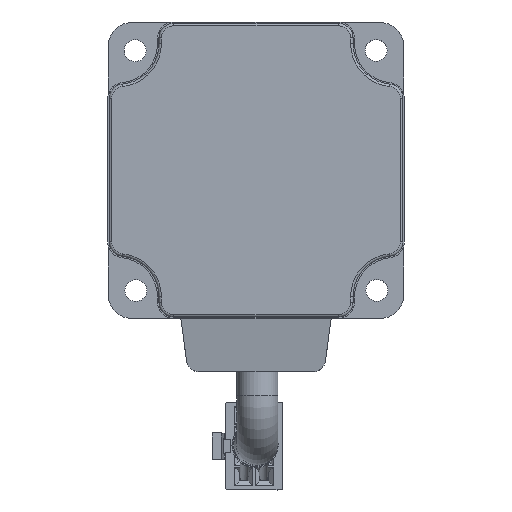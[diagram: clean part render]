
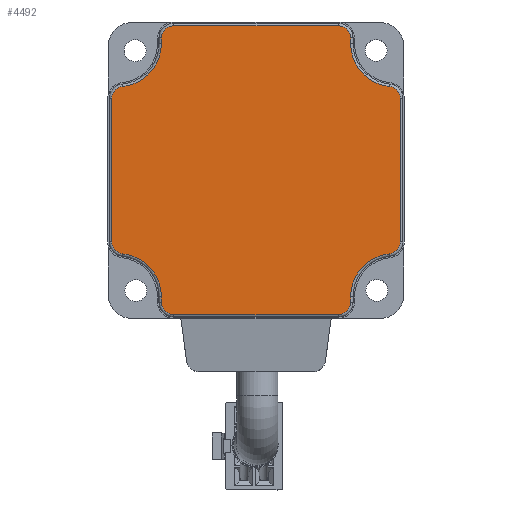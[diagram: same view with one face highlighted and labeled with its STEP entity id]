
A CAD part, top view. The second image highlights one B-rep face of the part: STEP entity #4492.
In plain terms, the highlighted planar face has unit normal (0, 0, 1).
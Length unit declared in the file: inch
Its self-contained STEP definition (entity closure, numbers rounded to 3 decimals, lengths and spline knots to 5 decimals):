
#3633=CARTESIAN_POINT('',(0.66929,1.17126,1.33858));
#3634=VERTEX_POINT('',#3633);
#3642=CARTESIAN_POINT('',(0.76772,1.07283,1.33858));
#3643=VERTEX_POINT('',#3642);
#3644=CARTESIAN_POINT('',(0.66929,1.07283,1.33858));
#3645=DIRECTION('',(0.0,0.0,-1.0));
#3646=DIRECTION('',(0.707,0.707,0.0));
#3647=AXIS2_PLACEMENT_3D('',#3644,#3645,#3646);
#3648=CIRCLE('',#3647,0.09843);
#3649=EDGE_CURVE('',#3634,#3643,#3648,.T.);
#3675=CARTESIAN_POINT('',(0.76772,1.02773,1.33858));
#3676=VERTEX_POINT('',#3675);
#3693=CARTESIAN_POINT('',(0.76772,1.07283,1.33858));
#3694=DIRECTION('',(0.,-1.0,0.0));
#3695=VECTOR('',#3694,0.0451);
#3696=LINE('',#3693,#3695);
#3697=EDGE_CURVE('',#3643,#3676,#3696,.T.);
#3707=CARTESIAN_POINT('',(1.08276,0.67912,1.33858));
#3708=VERTEX_POINT('',#3707);
#3726=CARTESIAN_POINT('',(1.11811,1.02773,1.33858));
#3727=DIRECTION('',(0.0,0.0,1.0));
#3728=DIRECTION('',(-0.742,-0.67,0.0));
#3729=AXIS2_PLACEMENT_3D('',#3726,#3727,#3728);
#3730=CIRCLE('',#3729,0.35039);
#3731=EDGE_CURVE('',#3676,#3708,#3730,.T.);
#3741=CARTESIAN_POINT('',(1.17126,0.5812,1.33858));
#3742=VERTEX_POINT('',#3741);
#3760=CARTESIAN_POINT('',(1.07283,0.5812,1.33858));
#3761=DIRECTION('',(0.0,0.0,-1.0));
#3762=DIRECTION('',(0.742,0.67,0.0));
#3763=AXIS2_PLACEMENT_3D('',#3760,#3761,#3762);
#3764=CIRCLE('',#3763,0.09843);
#3765=EDGE_CURVE('',#3708,#3742,#3764,.T.);
#3775=CARTESIAN_POINT('',(1.17126,-0.5812,1.33858));
#3776=VERTEX_POINT('',#3775);
#3793=CARTESIAN_POINT('',(1.17126,0.5812,1.33858));
#3794=DIRECTION('',(0.0,-1.0,0.0));
#3795=VECTOR('',#3794,1.1624);
#3796=LINE('',#3793,#3795);
#3797=EDGE_CURVE('',#3742,#3776,#3796,.T.);
#3807=CARTESIAN_POINT('',(1.08276,-0.67912,1.33858));
#3808=VERTEX_POINT('',#3807);
#3826=CARTESIAN_POINT('',(1.07283,-0.5812,1.33858));
#3827=DIRECTION('',(0.0,0.0,-1.));
#3828=DIRECTION('',(0.742,-0.67,0.0));
#3829=AXIS2_PLACEMENT_3D('',#3826,#3827,#3828);
#3830=CIRCLE('',#3829,0.09843);
#3831=EDGE_CURVE('',#3776,#3808,#3830,.T.);
#3841=CARTESIAN_POINT('',(0.76772,-1.02773,1.33858));
#3842=VERTEX_POINT('',#3841);
#3860=CARTESIAN_POINT('',(1.11811,-1.02773,1.33858));
#3861=DIRECTION('',(0.0,0.0,1.));
#3862=DIRECTION('',(-0.742,0.67,0.0));
#3863=AXIS2_PLACEMENT_3D('',#3860,#3861,#3862);
#3864=CIRCLE('',#3863,0.35039);
#3865=EDGE_CURVE('',#3808,#3842,#3864,.T.);
#3875=CARTESIAN_POINT('',(0.76772,-1.07283,1.33858));
#3876=VERTEX_POINT('',#3875);
#3893=CARTESIAN_POINT('',(0.76772,-1.02773,1.33858));
#3894=DIRECTION('',(0.,-1.0,0.0));
#3895=VECTOR('',#3894,0.0451);
#3896=LINE('',#3893,#3895);
#3897=EDGE_CURVE('',#3842,#3876,#3896,.T.);
#3907=CARTESIAN_POINT('',(0.66929,-1.17126,1.33858));
#3908=VERTEX_POINT('',#3907);
#3926=CARTESIAN_POINT('',(0.66929,-1.07283,1.33858));
#3927=DIRECTION('',(0.0,0.0,-1.));
#3928=DIRECTION('',(0.707,-0.707,0.0));
#3929=AXIS2_PLACEMENT_3D('',#3926,#3927,#3928);
#3930=CIRCLE('',#3929,0.09843);
#3931=EDGE_CURVE('',#3876,#3908,#3930,.T.);
#3941=CARTESIAN_POINT('',(-0.66929,-1.17126,1.33858));
#3942=VERTEX_POINT('',#3941);
#3959=CARTESIAN_POINT('',(0.66929,-1.17126,1.33858));
#3960=DIRECTION('',(-1.0,0.,0.0));
#3961=VECTOR('',#3960,1.33858);
#3962=LINE('',#3959,#3961);
#3963=EDGE_CURVE('',#3908,#3942,#3962,.T.);
#3973=CARTESIAN_POINT('',(-0.76772,-1.07283,1.33858));
#3974=VERTEX_POINT('',#3973);
#3992=CARTESIAN_POINT('',(-0.66929,-1.07283,1.33858));
#3993=DIRECTION('',(0.0,0.0,-1.));
#3994=DIRECTION('',(-0.707,-0.707,0.0));
#3995=AXIS2_PLACEMENT_3D('',#3992,#3993,#3994);
#3996=CIRCLE('',#3995,0.09843);
#3997=EDGE_CURVE('',#3942,#3974,#3996,.T.);
#4007=CARTESIAN_POINT('',(-0.76772,-1.02773,1.33858));
#4008=VERTEX_POINT('',#4007);
#4025=CARTESIAN_POINT('',(-0.76772,-1.07283,1.33858));
#4026=DIRECTION('',(0.,1.0,0.0));
#4027=VECTOR('',#4026,0.0451);
#4028=LINE('',#4025,#4027);
#4029=EDGE_CURVE('',#3974,#4008,#4028,.T.);
#4039=CARTESIAN_POINT('',(-1.08276,-0.67912,1.33858));
#4040=VERTEX_POINT('',#4039);
#4058=CARTESIAN_POINT('',(-1.11811,-1.02773,1.33858));
#4059=DIRECTION('',(0.0,0.0,1.));
#4060=DIRECTION('',(0.742,0.67,0.0));
#4061=AXIS2_PLACEMENT_3D('',#4058,#4059,#4060);
#4062=CIRCLE('',#4061,0.35039);
#4063=EDGE_CURVE('',#4008,#4040,#4062,.T.);
#4073=CARTESIAN_POINT('',(-1.17126,-0.5812,1.33858));
#4074=VERTEX_POINT('',#4073);
#4092=CARTESIAN_POINT('',(-1.07283,-0.5812,1.33858));
#4093=DIRECTION('',(0.0,0.0,-1.0));
#4094=DIRECTION('',(-0.742,-0.67,0.0));
#4095=AXIS2_PLACEMENT_3D('',#4092,#4093,#4094);
#4096=CIRCLE('',#4095,0.09843);
#4097=EDGE_CURVE('',#4040,#4074,#4096,.T.);
#4107=CARTESIAN_POINT('',(-1.17126,0.5812,1.33858));
#4108=VERTEX_POINT('',#4107);
#4125=CARTESIAN_POINT('',(-1.17126,-0.5812,1.33858));
#4126=DIRECTION('',(0.0,1.0,0.0));
#4127=VECTOR('',#4126,1.1624);
#4128=LINE('',#4125,#4127);
#4129=EDGE_CURVE('',#4074,#4108,#4128,.T.);
#4139=CARTESIAN_POINT('',(-1.08276,0.67912,1.33858));
#4140=VERTEX_POINT('',#4139);
#4158=CARTESIAN_POINT('',(-1.07283,0.5812,1.33858));
#4159=DIRECTION('',(0.0,0.0,-1.));
#4160=DIRECTION('',(-0.742,0.67,0.0));
#4161=AXIS2_PLACEMENT_3D('',#4158,#4159,#4160);
#4162=CIRCLE('',#4161,0.09843);
#4163=EDGE_CURVE('',#4108,#4140,#4162,.T.);
#4173=CARTESIAN_POINT('',(-0.76772,1.02773,1.33858));
#4174=VERTEX_POINT('',#4173);
#4192=CARTESIAN_POINT('',(-1.11811,1.02773,1.33858));
#4193=DIRECTION('',(0.0,0.0,1.0));
#4194=DIRECTION('',(0.742,-0.67,0.0));
#4195=AXIS2_PLACEMENT_3D('',#4192,#4193,#4194);
#4196=CIRCLE('',#4195,0.35039);
#4197=EDGE_CURVE('',#4140,#4174,#4196,.T.);
#4207=CARTESIAN_POINT('',(-0.76772,1.07283,1.33858));
#4208=VERTEX_POINT('',#4207);
#4225=CARTESIAN_POINT('',(-0.76772,1.02773,1.33858));
#4226=DIRECTION('',(0.,1.0,0.0));
#4227=VECTOR('',#4226,0.0451);
#4228=LINE('',#4225,#4227);
#4229=EDGE_CURVE('',#4174,#4208,#4228,.T.);
#4239=CARTESIAN_POINT('',(-0.66929,1.17126,1.33858));
#4240=VERTEX_POINT('',#4239);
#4258=CARTESIAN_POINT('',(-0.66929,1.07283,1.33858));
#4259=DIRECTION('',(0.0,0.0,-1.0));
#4260=DIRECTION('',(-0.707,0.707,0.0));
#4261=AXIS2_PLACEMENT_3D('',#4258,#4259,#4260);
#4262=CIRCLE('',#4261,0.09843);
#4263=EDGE_CURVE('',#4208,#4240,#4262,.T.);
#4281=CARTESIAN_POINT('',(-0.66929,1.17126,1.33858));
#4282=DIRECTION('',(1.0,0.,0.0));
#4283=VECTOR('',#4282,1.33858);
#4284=LINE('',#4281,#4283);
#4285=EDGE_CURVE('',#4240,#3634,#4284,.T.);
#4465=CARTESIAN_POINT('',(0.,0.,1.33858));
#4466=DIRECTION('',(0.0,0.0,1.0));
#4467=DIRECTION('',(1.0,0.0,0.0));
#4468=AXIS2_PLACEMENT_3D('',#4465,#4466,#4467);
#4469=PLANE('',#4468);
#4470=ORIENTED_EDGE('',*,*,#3649,.F.);
#4471=ORIENTED_EDGE('',*,*,#4285,.F.);
#4472=ORIENTED_EDGE('',*,*,#4263,.F.);
#4473=ORIENTED_EDGE('',*,*,#4229,.F.);
#4474=ORIENTED_EDGE('',*,*,#4197,.F.);
#4475=ORIENTED_EDGE('',*,*,#4163,.F.);
#4476=ORIENTED_EDGE('',*,*,#4129,.F.);
#4477=ORIENTED_EDGE('',*,*,#4097,.F.);
#4478=ORIENTED_EDGE('',*,*,#4063,.F.);
#4479=ORIENTED_EDGE('',*,*,#4029,.F.);
#4480=ORIENTED_EDGE('',*,*,#3997,.F.);
#4481=ORIENTED_EDGE('',*,*,#3963,.F.);
#4482=ORIENTED_EDGE('',*,*,#3931,.F.);
#4483=ORIENTED_EDGE('',*,*,#3897,.F.);
#4484=ORIENTED_EDGE('',*,*,#3865,.F.);
#4485=ORIENTED_EDGE('',*,*,#3831,.F.);
#4486=ORIENTED_EDGE('',*,*,#3797,.F.);
#4487=ORIENTED_EDGE('',*,*,#3765,.F.);
#4488=ORIENTED_EDGE('',*,*,#3731,.F.);
#4489=ORIENTED_EDGE('',*,*,#3697,.F.);
#4490=EDGE_LOOP('',(#4470,#4471,#4472,#4473,#4474,#4475,#4476,#4477,#4478,#4479,#4480,#4481,#4482,#4483,#4484,#4485,#4486,#4487,#4488,#4489));
#4491=FACE_OUTER_BOUND('',#4490,.T.);
#4492=ADVANCED_FACE('',(#4491),#4469,.T.);
